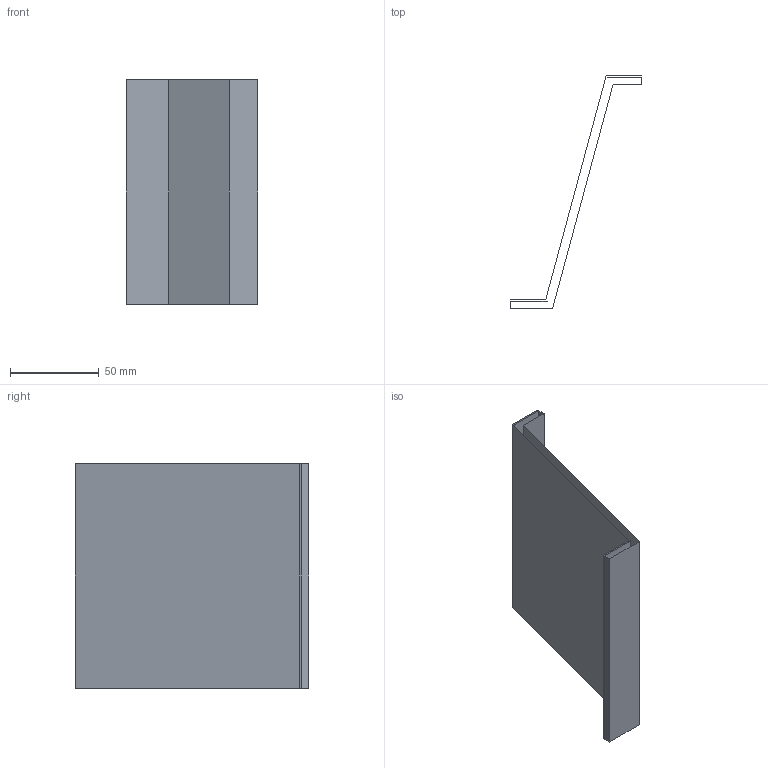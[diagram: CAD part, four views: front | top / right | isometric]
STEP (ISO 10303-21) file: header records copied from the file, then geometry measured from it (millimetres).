
FILE_DESCRIPTION(('CATIA V5 STEP Exchange'),'2;1');
FILE_NAME('C:\_Andres\UNIVERSIDAD\IQS\ASIGNATURAS\DAO\EXF\EXF-16172c\2inicio\Rabat_Riba_Ej06_v26.stp','2017-03-05T21:01:27+00:00',('none'),('none'),'CATIA Version 5-6 Release 2014 SP1 HF18','CATIA V5 STEP AP203','none');
FILE_SCHEMA(('CONFIG_CONTROL_DESIGN'));
Length unit declared in the file: millimetre
Products named in the file (1): Rabat_Riba_Ej06_v26
Bounding box: 74 x 131 x 126 mm (x, y, z)
Surface area: 49015.7 mm2 (no closed solid volume)
Topology: 0 solids, 2 shells, 10 faces, 42 edges, 36 vertices
Faces by surface type: plane 10
Entity records: 461 total; most frequent: CARTESIAN_POINT 100, DIRECTION 59, ORIENTED_EDGE 40, VECTOR 39, LINE 39, EDGE_CURVE 32, VERTEX_POINT 24, AXIS2_PLACEMENT_3D 11
